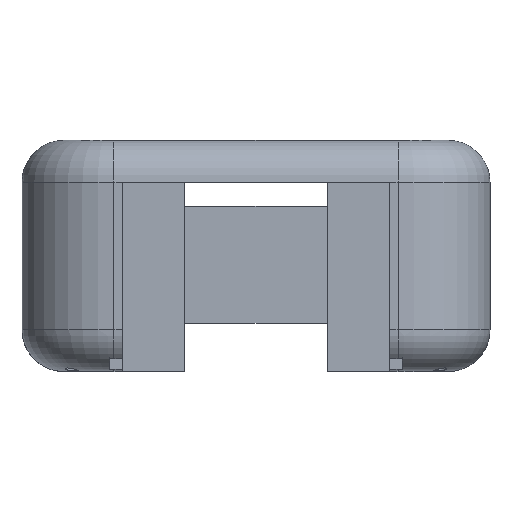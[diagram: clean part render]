
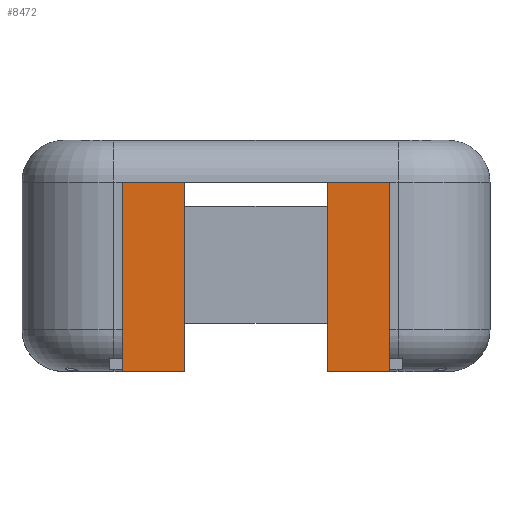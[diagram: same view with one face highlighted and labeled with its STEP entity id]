
A CAD part, top view. The second image highlights one B-rep face of the part: STEP entity #8472.
In plain terms, the highlighted planar face has unit normal (0, 0, 1).
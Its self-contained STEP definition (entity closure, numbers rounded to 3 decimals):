
#1017 = PLANE('',#1018);
#1018 = AXIS2_PLACEMENT_3D('',#1019,#1020,#1021);
#1019 = CARTESIAN_POINT('',(8.5,10.8,29.));
#1020 = DIRECTION('',(1.,0.,0.));
#1021 = DIRECTION('',(0.,-1.,0.));
#1045 = PLANE('',#1046);
#1046 = AXIS2_PLACEMENT_3D('',#1047,#1048,#1049);
#1047 = CARTESIAN_POINT('',(-50.,10.8,12.));
#1048 = DIRECTION('',(0.,-1.,0.));
#1049 = DIRECTION('',(1.,0.,0.));
#1074 = PLANE('',#1075);
#1075 = AXIS2_PLACEMENT_3D('',#1076,#1077,#1078);
#1076 = CARTESIAN_POINT('',(-8.5,10.8,29.));
#1077 = DIRECTION('',(1.,0.,0.));
#1078 = DIRECTION('',(0.,-1.,0.));
#1179 = PLANE('',#1180);
#1180 = AXIS2_PLACEMENT_3D('',#1181,#1182,#1183);
#1181 = CARTESIAN_POINT('',(0.,12.4,62.));
#1182 = DIRECTION('',(0.,-1.,0.));
#1183 = DIRECTION('',(1.,0.,0.));
#2763 = CYLINDRICAL_SURFACE('',#2764,5.);
#2764 = AXIS2_PLACEMENT_3D('',#2765,#2766,#2767);
#2765 = CARTESIAN_POINT('',(-17.,-7.8,39.));
#2766 = DIRECTION('',(1.,0.,0.));
#2767 = DIRECTION('',(0.,0.,-1.));
#2780 = VERTEX_POINT('',#2781);
#2781 = CARTESIAN_POINT('',(8.5,-12.799,38.9));
#2883 = VERTEX_POINT('',#2884);
#2884 = CARTESIAN_POINT('',(8.5,10.8,38.9));
#2905 = EDGE_CURVE('',#2883,#2780,#2906,.T.);
#2906 = SURFACE_CURVE('',#2907,(#2911,#2918),.PCURVE_S1.);
#2907 = LINE('',#2908,#2909);
#2908 = CARTESIAN_POINT('',(8.5,11.6,38.9));
#2909 = VECTOR('',#2910,1.);
#2910 = DIRECTION('',(0.,-1.,0.));
#2911 = PCURVE('',#1017,#2912);
#2912 = DEFINITIONAL_REPRESENTATION('',(#2913),#2917);
#2913 = LINE('',#2914,#2915);
#2914 = CARTESIAN_POINT('',(-0.8,-9.9));
#2915 = VECTOR('',#2916,1.);
#2916 = DIRECTION('',(1.,0.));
#2917 = ( GEOMETRIC_REPRESENTATION_CONTEXT(2) 
PARAMETRIC_REPRESENTATION_CONTEXT() REPRESENTATION_CONTEXT('2D SPACE',''
  ) );
#2918 = PCURVE('',#2919,#2924);
#2919 = PLANE('',#2920);
#2920 = AXIS2_PLACEMENT_3D('',#2921,#2922,#2923);
#2921 = CARTESIAN_POINT('',(-23.1,12.4,38.9));
#2922 = DIRECTION('',(0.,0.,1.));
#2923 = DIRECTION('',(1.,0.,-0.));
#2924 = DEFINITIONAL_REPRESENTATION('',(#2925),#2929);
#2925 = LINE('',#2926,#2927);
#2926 = CARTESIAN_POINT('',(31.6,-0.8));
#2927 = VECTOR('',#2928,1.);
#2928 = DIRECTION('',(0.,-1.));
#2929 = ( GEOMETRIC_REPRESENTATION_CONTEXT(2) 
PARAMETRIC_REPRESENTATION_CONTEXT() REPRESENTATION_CONTEXT('2D SPACE',''
  ) );
#2936 = EDGE_CURVE('',#2883,#2937,#2939,.T.);
#2937 = VERTEX_POINT('',#2938);
#2938 = CARTESIAN_POINT('',(-8.5,10.8,38.9));
#2939 = SURFACE_CURVE('',#2940,(#2944,#2951),.PCURVE_S1.);
#2940 = LINE('',#2941,#2942);
#2941 = CARTESIAN_POINT('',(16.85,10.8,38.9));
#2942 = VECTOR('',#2943,1.);
#2943 = DIRECTION('',(-1.,0.,0.));
#2944 = PCURVE('',#1045,#2945);
#2945 = DEFINITIONAL_REPRESENTATION('',(#2946),#2950);
#2946 = LINE('',#2947,#2948);
#2947 = CARTESIAN_POINT('',(66.85,26.9));
#2948 = VECTOR('',#2949,1.);
#2949 = DIRECTION('',(-1.,0.));
#2950 = ( GEOMETRIC_REPRESENTATION_CONTEXT(2) 
PARAMETRIC_REPRESENTATION_CONTEXT() REPRESENTATION_CONTEXT('2D SPACE',''
  ) );
#2951 = PCURVE('',#2919,#2952);
#2952 = DEFINITIONAL_REPRESENTATION('',(#2953),#2957);
#2953 = LINE('',#2954,#2955);
#2954 = CARTESIAN_POINT('',(39.95,-1.6));
#2955 = VECTOR('',#2956,1.);
#2956 = DIRECTION('',(-1.,0.));
#2957 = ( GEOMETRIC_REPRESENTATION_CONTEXT(2) 
PARAMETRIC_REPRESENTATION_CONTEXT() REPRESENTATION_CONTEXT('2D SPACE',''
  ) );
#2984 = VERTEX_POINT('',#2985);
#2985 = CARTESIAN_POINT('',(-8.5,-12.799,38.9));
#3002 = CYLINDRICAL_SURFACE('',#3003,5.);
#3003 = AXIS2_PLACEMENT_3D('',#3004,#3005,#3006);
#3004 = CARTESIAN_POINT('',(-17.,-7.8,39.));
#3005 = DIRECTION('',(1.,0.,0.));
#3006 = DIRECTION('',(0.,0.,-1.));
#3123 = EDGE_CURVE('',#2937,#2984,#3124,.T.);
#3124 = SURFACE_CURVE('',#3125,(#3129,#3136),.PCURVE_S1.);
#3125 = LINE('',#3126,#3127);
#3126 = CARTESIAN_POINT('',(-8.5,11.6,38.9));
#3127 = VECTOR('',#3128,1.);
#3128 = DIRECTION('',(0.,-1.,0.));
#3129 = PCURVE('',#1074,#3130);
#3130 = DEFINITIONAL_REPRESENTATION('',(#3131),#3135);
#3131 = LINE('',#3132,#3133);
#3132 = CARTESIAN_POINT('',(-0.8,-9.9));
#3133 = VECTOR('',#3134,1.);
#3134 = DIRECTION('',(1.,0.));
#3135 = ( GEOMETRIC_REPRESENTATION_CONTEXT(2) 
PARAMETRIC_REPRESENTATION_CONTEXT() REPRESENTATION_CONTEXT('2D SPACE',''
  ) );
#3136 = PCURVE('',#2919,#3137);
#3137 = DEFINITIONAL_REPRESENTATION('',(#3138),#3142);
#3138 = LINE('',#3139,#3140);
#3139 = CARTESIAN_POINT('',(14.6,-0.8));
#3140 = VECTOR('',#3141,1.);
#3141 = DIRECTION('',(0.,-1.));
#3142 = ( GEOMETRIC_REPRESENTATION_CONTEXT(2) 
PARAMETRIC_REPRESENTATION_CONTEXT() REPRESENTATION_CONTEXT('2D SPACE',''
  ) );
#3305 = EDGE_CURVE('',#3306,#3308,#3310,.T.);
#3306 = VERTEX_POINT('',#3307);
#3307 = CARTESIAN_POINT('',(-16.85,12.4,38.9));
#3308 = VERTEX_POINT('',#3309);
#3309 = CARTESIAN_POINT('',(16.85,12.4,38.9));
#3310 = SURFACE_CURVE('',#3311,(#3315,#3322),.PCURVE_S1.);
#3311 = LINE('',#3312,#3313);
#3312 = CARTESIAN_POINT('',(-23.1,12.4,38.9));
#3313 = VECTOR('',#3314,1.);
#3314 = DIRECTION('',(1.,0.,0.));
#3315 = PCURVE('',#1179,#3316);
#3316 = DEFINITIONAL_REPRESENTATION('',(#3317),#3321);
#3317 = LINE('',#3318,#3319);
#3318 = CARTESIAN_POINT('',(-23.1,-23.1));
#3319 = VECTOR('',#3320,1.);
#3320 = DIRECTION('',(1.,0.));
#3321 = ( GEOMETRIC_REPRESENTATION_CONTEXT(2) 
PARAMETRIC_REPRESENTATION_CONTEXT() REPRESENTATION_CONTEXT('2D SPACE',''
  ) );
#3322 = PCURVE('',#2919,#3323);
#3323 = DEFINITIONAL_REPRESENTATION('',(#3324),#3328);
#3324 = LINE('',#3325,#3326);
#3325 = CARTESIAN_POINT('',(0.,0.));
#3326 = VECTOR('',#3327,1.);
#3327 = DIRECTION('',(1.,0.));
#3328 = ( GEOMETRIC_REPRESENTATION_CONTEXT(2) 
PARAMETRIC_REPRESENTATION_CONTEXT() REPRESENTATION_CONTEXT('2D SPACE',''
  ) );
#3347 = CYLINDRICAL_SURFACE('',#3348,6.25);
#3348 = AXIS2_PLACEMENT_3D('',#3349,#3350,#3351);
#3349 = CARTESIAN_POINT('',(16.85,12.4,45.15));
#3350 = DIRECTION('',(0.,-1.,0.));
#3351 = DIRECTION('',(0.,0.,-1.));
#3520 = CYLINDRICAL_SURFACE('',#3521,6.25);
#3521 = AXIS2_PLACEMENT_3D('',#3522,#3523,#3524);
#3522 = CARTESIAN_POINT('',(-16.85,12.4,45.15));
#3523 = DIRECTION('',(0.,-1.,0.));
#3524 = DIRECTION('',(0.,0.,-1.));
#7572 = VERTEX_POINT('',#7573);
#7573 = CARTESIAN_POINT('',(16.85,-12.799,38.9));
#7609 = EDGE_CURVE('',#2780,#7572,#7610,.T.);
#7610 = SURFACE_CURVE('',#7611,(#7615,#7621),.PCURVE_S1.);
#7611 = LINE('',#7612,#7613);
#7612 = CARTESIAN_POINT('',(-17.,-12.799,38.9));
#7613 = VECTOR('',#7614,1.);
#7614 = DIRECTION('',(1.,0.,0.));
#7615 = PCURVE('',#2763,#7616);
#7616 = DEFINITIONAL_REPRESENTATION('',(#7617),#7620);
#7617 = B_SPLINE_CURVE_WITH_KNOTS('',1,(#7618,#7619),.UNSPECIFIED.,.F.,
  .F.,(2,2),(25.5,34.),.PIECEWISE_BEZIER_KNOTS.);
#7618 = CARTESIAN_POINT('',(4.732,25.5));
#7619 = CARTESIAN_POINT('',(4.732,34.));
#7620 = ( GEOMETRIC_REPRESENTATION_CONTEXT(2) 
PARAMETRIC_REPRESENTATION_CONTEXT() REPRESENTATION_CONTEXT('2D SPACE',''
  ) );
#7621 = PCURVE('',#2919,#7622);
#7622 = DEFINITIONAL_REPRESENTATION('',(#7623),#7627);
#7623 = LINE('',#7624,#7625);
#7624 = CARTESIAN_POINT('',(6.1,-25.199));
#7625 = VECTOR('',#7626,1.);
#7626 = DIRECTION('',(1.,0.));
#7627 = ( GEOMETRIC_REPRESENTATION_CONTEXT(2) 
PARAMETRIC_REPRESENTATION_CONTEXT() REPRESENTATION_CONTEXT('2D SPACE',''
  ) );
#8472 = ADVANCED_FACE('',(#8473),#2919,.T.);
#8473 = FACE_BOUND('',#8474,.T.);
#8474 = EDGE_LOOP('',(#8475,#8476,#8499,#8519,#8520,#8521,#8522,#8523));
#8475 = ORIENTED_EDGE('',*,*,#3305,.F.);
#8476 = ORIENTED_EDGE('',*,*,#8477,.T.);
#8477 = EDGE_CURVE('',#3306,#8478,#8480,.T.);
#8478 = VERTEX_POINT('',#8479);
#8479 = CARTESIAN_POINT('',(-16.85,-12.799,38.9));
#8480 = SURFACE_CURVE('',#8481,(#8485,#8492),.PCURVE_S1.);
#8481 = LINE('',#8482,#8483);
#8482 = CARTESIAN_POINT('',(-16.85,12.4,38.9));
#8483 = VECTOR('',#8484,1.);
#8484 = DIRECTION('',(0.,-1.,0.));
#8485 = PCURVE('',#2919,#8486);
#8486 = DEFINITIONAL_REPRESENTATION('',(#8487),#8491);
#8487 = LINE('',#8488,#8489);
#8488 = CARTESIAN_POINT('',(6.25,0.));
#8489 = VECTOR('',#8490,1.);
#8490 = DIRECTION('',(0.,-1.));
#8491 = ( GEOMETRIC_REPRESENTATION_CONTEXT(2) 
PARAMETRIC_REPRESENTATION_CONTEXT() REPRESENTATION_CONTEXT('2D SPACE',''
  ) );
#8492 = PCURVE('',#3520,#8493);
#8493 = DEFINITIONAL_REPRESENTATION('',(#8494),#8498);
#8494 = LINE('',#8495,#8496);
#8495 = CARTESIAN_POINT('',(6.283,0.));
#8496 = VECTOR('',#8497,1.);
#8497 = DIRECTION('',(-0.,1.));
#8498 = ( GEOMETRIC_REPRESENTATION_CONTEXT(2) 
PARAMETRIC_REPRESENTATION_CONTEXT() REPRESENTATION_CONTEXT('2D SPACE',''
  ) );
#8499 = ORIENTED_EDGE('',*,*,#8500,.T.);
#8500 = EDGE_CURVE('',#8478,#2984,#8501,.T.);
#8501 = SURFACE_CURVE('',#8502,(#8506,#8513),.PCURVE_S1.);
#8502 = LINE('',#8503,#8504);
#8503 = CARTESIAN_POINT('',(-17.,-12.799,38.9));
#8504 = VECTOR('',#8505,1.);
#8505 = DIRECTION('',(1.,0.,0.));
#8506 = PCURVE('',#2919,#8507);
#8507 = DEFINITIONAL_REPRESENTATION('',(#8508),#8512);
#8508 = LINE('',#8509,#8510);
#8509 = CARTESIAN_POINT('',(6.1,-25.199));
#8510 = VECTOR('',#8511,1.);
#8511 = DIRECTION('',(1.,0.));
#8512 = ( GEOMETRIC_REPRESENTATION_CONTEXT(2) 
PARAMETRIC_REPRESENTATION_CONTEXT() REPRESENTATION_CONTEXT('2D SPACE',''
  ) );
#8513 = PCURVE('',#3002,#8514);
#8514 = DEFINITIONAL_REPRESENTATION('',(#8515),#8518);
#8515 = B_SPLINE_CURVE_WITH_KNOTS('',1,(#8516,#8517),.UNSPECIFIED.,.F.,
  .F.,(2,2),(0.,8.5),.PIECEWISE_BEZIER_KNOTS.);
#8516 = CARTESIAN_POINT('',(4.732,0.));
#8517 = CARTESIAN_POINT('',(4.732,8.5));
#8518 = ( GEOMETRIC_REPRESENTATION_CONTEXT(2) 
PARAMETRIC_REPRESENTATION_CONTEXT() REPRESENTATION_CONTEXT('2D SPACE',''
  ) );
#8519 = ORIENTED_EDGE('',*,*,#3123,.F.);
#8520 = ORIENTED_EDGE('',*,*,#2936,.F.);
#8521 = ORIENTED_EDGE('',*,*,#2905,.T.);
#8522 = ORIENTED_EDGE('',*,*,#7609,.T.);
#8523 = ORIENTED_EDGE('',*,*,#8524,.T.);
#8524 = EDGE_CURVE('',#7572,#3308,#8525,.T.);
#8525 = SURFACE_CURVE('',#8526,(#8530,#8537),.PCURVE_S1.);
#8526 = LINE('',#8527,#8528);
#8527 = CARTESIAN_POINT('',(16.85,-12.799,38.9));
#8528 = VECTOR('',#8529,1.);
#8529 = DIRECTION('',(0.,1.,0.));
#8530 = PCURVE('',#2919,#8531);
#8531 = DEFINITIONAL_REPRESENTATION('',(#8532),#8536);
#8532 = LINE('',#8533,#8534);
#8533 = CARTESIAN_POINT('',(39.95,-25.199));
#8534 = VECTOR('',#8535,1.);
#8535 = DIRECTION('',(0.,1.));
#8536 = ( GEOMETRIC_REPRESENTATION_CONTEXT(2) 
PARAMETRIC_REPRESENTATION_CONTEXT() REPRESENTATION_CONTEXT('2D SPACE',''
  ) );
#8537 = PCURVE('',#3347,#8538);
#8538 = DEFINITIONAL_REPRESENTATION('',(#8539),#8543);
#8539 = LINE('',#8540,#8541);
#8540 = CARTESIAN_POINT('',(0.,25.199));
#8541 = VECTOR('',#8542,1.);
#8542 = DIRECTION('',(-0.,-1.));
#8543 = ( GEOMETRIC_REPRESENTATION_CONTEXT(2) 
PARAMETRIC_REPRESENTATION_CONTEXT() REPRESENTATION_CONTEXT('2D SPACE',''
  ) );
